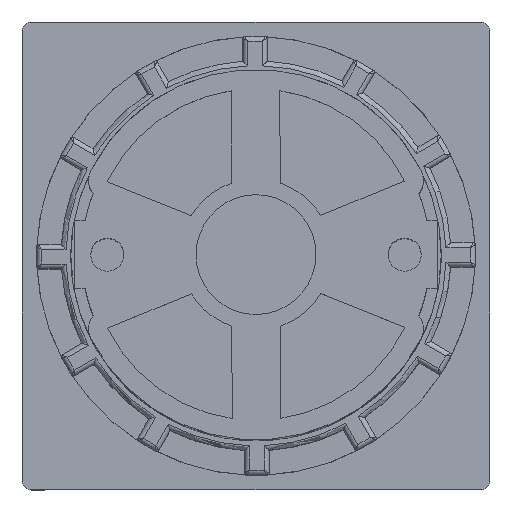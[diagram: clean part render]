
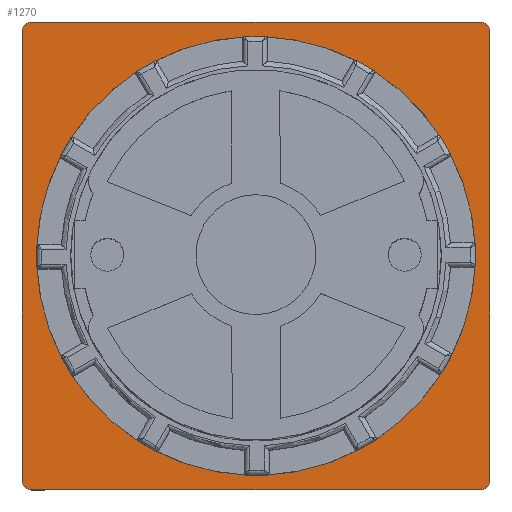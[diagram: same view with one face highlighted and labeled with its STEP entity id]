
A CAD part, top view. The second image highlights one B-rep face of the part: STEP entity #1270.
In plain terms, the highlighted planar face has unit normal (0, 0, 1).
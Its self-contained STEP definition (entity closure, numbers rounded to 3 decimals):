
#1270=ADVANCED_FACE('',(#5467,#5468),#2024,.F.);
#2024=PLANE('',#15662);
#2768=LINE('',#22637,#4086);
#2769=LINE('',#22642,#4087);
#2770=LINE('',#22646,#4088);
#2771=LINE('',#22650,#4089);
#4086=VECTOR('',#17580,1.);
#4087=VECTOR('',#17583,1.);
#4088=VECTOR('',#17586,1.);
#4089=VECTOR('',#17589,1.);
#5467=FACE_BOUND('',#5883,.T.);
#5468=FACE_BOUND('',#5884,.T.);
#5883=EDGE_LOOP('',(#7465,#7466,#7467,#7468,#7469,#7470,#7471,#7472));
#5884=EDGE_LOOP('',(#7473));
#7465=ORIENTED_EDGE('',*,*,#13014,.F.);
#7466=ORIENTED_EDGE('',*,*,#13015,.F.);
#7467=ORIENTED_EDGE('',*,*,#13016,.F.);
#7468=ORIENTED_EDGE('',*,*,#13017,.F.);
#7469=ORIENTED_EDGE('',*,*,#13018,.F.);
#7470=ORIENTED_EDGE('',*,*,#13019,.F.);
#7471=ORIENTED_EDGE('',*,*,#13020,.F.);
#7472=ORIENTED_EDGE('',*,*,#13021,.F.);
#7473=ORIENTED_EDGE('',*,*,#12976,.T.);
#11368=VERTEX_POINT('',#22542);
#11386=VERTEX_POINT('',#22638);
#11387=VERTEX_POINT('',#22639);
#11388=VERTEX_POINT('',#22641);
#11389=VERTEX_POINT('',#22643);
#11390=VERTEX_POINT('',#22645);
#11391=VERTEX_POINT('',#22647);
#11392=VERTEX_POINT('',#22649);
#11393=VERTEX_POINT('',#22651);
#12976=EDGE_CURVE('',#11368,#11368,#14906,.T.);
#13014=EDGE_CURVE('',#11386,#11387,#2768,.T.);
#13015=EDGE_CURVE('',#11388,#11386,#14936,.T.);
#13016=EDGE_CURVE('',#11389,#11388,#2769,.T.);
#13017=EDGE_CURVE('',#11390,#11389,#14937,.T.);
#13018=EDGE_CURVE('',#11391,#11390,#2770,.T.);
#13019=EDGE_CURVE('',#11392,#11391,#14938,.T.);
#13020=EDGE_CURVE('',#11393,#11392,#2771,.T.);
#13021=EDGE_CURVE('',#11387,#11393,#14939,.T.);
#14906=CIRCLE('',#15620,22.5);
#14936=CIRCLE('',#15658,1.);
#14937=CIRCLE('',#15659,1.);
#14938=CIRCLE('',#15660,1.);
#14939=CIRCLE('',#15661,1.);
#15620=AXIS2_PLACEMENT_3D('',#22541,#17496,#17497);
#15658=AXIS2_PLACEMENT_3D('',#22640,#17581,#17582);
#15659=AXIS2_PLACEMENT_3D('',#22644,#17584,#17585);
#15660=AXIS2_PLACEMENT_3D('',#22648,#17587,#17588);
#15661=AXIS2_PLACEMENT_3D('',#22652,#17590,#17591);
#15662=AXIS2_PLACEMENT_3D('',#22653,#17592,#17593);
#17496=DIRECTION('',(0.,0.,-1.));
#17497=DIRECTION('',(0.,1.,0.));
#17580=DIRECTION('',(0.,1.,0.));
#17581=DIRECTION('',(0.,0.,-1.));
#17582=DIRECTION('',(1.,0.,0.));
#17583=DIRECTION('',(-1.,0.,0.));
#17584=DIRECTION('',(0.,0.,-1.));
#17585=DIRECTION('',(1.,0.,0.));
#17586=DIRECTION('',(0.,-1.,0.));
#17587=DIRECTION('',(0.,0.,-1.));
#17588=DIRECTION('',(1.,0.,0.));
#17589=DIRECTION('',(1.,0.,0.));
#17590=DIRECTION('',(0.,0.,-1.));
#17591=DIRECTION('',(1.,0.,0.));
#17592=DIRECTION('',(0.,0.,-1.));
#17593=DIRECTION('',(-1.,0.,0.));
#22541=CARTESIAN_POINT('',(0.,0.,-18.4));
#22542=CARTESIAN_POINT('',(0.,22.5,-18.4));
#22637=CARTESIAN_POINT('',(-24.,-23.,-18.4));
#22638=CARTESIAN_POINT('',(-24.,-23.,-18.4));
#22639=CARTESIAN_POINT('',(-24.,23.,-18.4));
#22640=CARTESIAN_POINT('',(-23.,-23.,-18.4));
#22641=CARTESIAN_POINT('',(-23.,-24.,-18.4));
#22642=CARTESIAN_POINT('',(23.,-24.,-18.4));
#22643=CARTESIAN_POINT('',(23.,-24.,-18.4));
#22644=CARTESIAN_POINT('',(23.,-23.,-18.4));
#22645=CARTESIAN_POINT('',(24.,-23.,-18.4));
#22646=CARTESIAN_POINT('',(24.,23.,-18.4));
#22647=CARTESIAN_POINT('',(24.,23.,-18.4));
#22648=CARTESIAN_POINT('',(23.,23.,-18.4));
#22649=CARTESIAN_POINT('',(23.,24.,-18.4));
#22650=CARTESIAN_POINT('',(-23.,24.,-18.4));
#22651=CARTESIAN_POINT('',(-23.,24.,-18.4));
#22652=CARTESIAN_POINT('',(-23.,23.,-18.4));
#22653=CARTESIAN_POINT('',(-23.,23.,-18.4));
